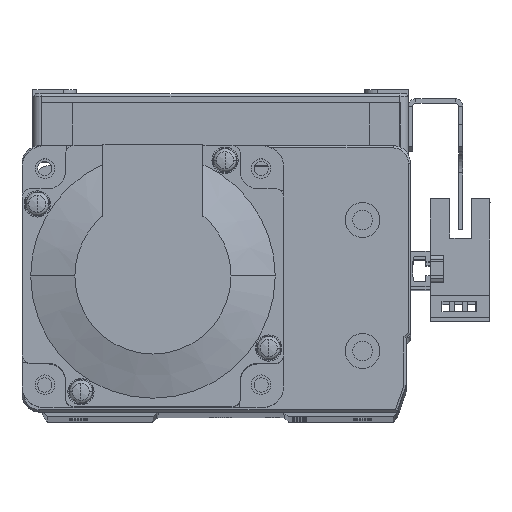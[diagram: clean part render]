
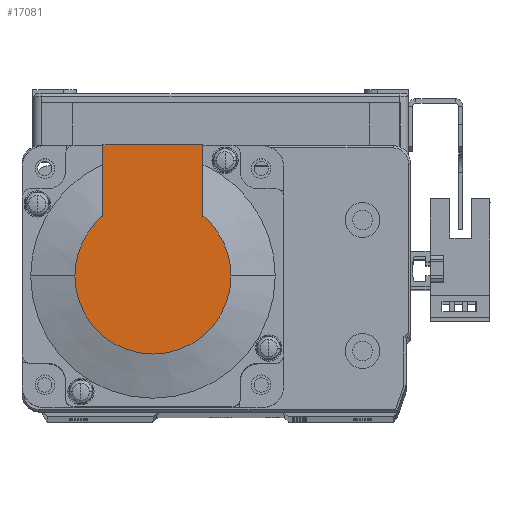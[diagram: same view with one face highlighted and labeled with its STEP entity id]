
A CAD part, top view. The second image highlights one B-rep face of the part: STEP entity #17081.
In plain terms, the highlighted planar face has unit normal (0, 0, 1) as drawn and (-1, 0, 0) by its records, which use the part's own axes.
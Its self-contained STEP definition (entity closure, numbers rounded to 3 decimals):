
#4326 = CIRCLE ( 'NONE', #12235, 17.881 ) ;
#4344 = CIRCLE ( 'NONE', #12296, 17.881 ) ;
#6601 = CARTESIAN_POINT ( 'NONE',  ( -99., 0., 0. ) ) ;
#6607 = DIRECTION ( 'NONE',  ( 0., 0., -1. ) ) ;
#6609 = DIRECTION ( 'NONE',  ( -1., 0., 0. ) ) ;
#6731 = CARTESIAN_POINT ( 'NONE',  ( -99., 0., 0. ) ) ;
#6736 = DIRECTION ( 'NONE',  ( -1., 0., 0. ) ) ;
#6740 = DIRECTION ( 'NONE',  ( 0., 0., -1. ) ) ;
#9316 = EDGE_LOOP ( 'NONE', ( #46288, #46279, #46207, #46293, #46287, #46234 ) ) ;
#11631 = AXIS2_PLACEMENT_3D ( 'NONE', #33202, #33205, #33227 ) ;
#12235 = AXIS2_PLACEMENT_3D ( 'NONE', #6601, #6609, #6607 ) ;
#12296 = AXIS2_PLACEMENT_3D ( 'NONE', #6731, #6736, #6740 ) ;
#12462 = AXIS2_PLACEMENT_3D ( 'NONE', #30920, #30887, #30897 ) ;
#17081 = ADVANCED_FACE ( 'NONE', ( #34033 ), #33199, .T. ) ;
#19394 = EDGE_CURVE ( 'NONE', #27131, #32759, #4326, .T. ) ;
#19442 = EDGE_CURVE ( 'NONE', #32778, #27131, #4344, .T. ) ;
#19741 = EDGE_CURVE ( 'NONE', #27224, #32778, #36564, .T. ) ;
#19788 = EDGE_CURVE ( 'NONE', #27286, #27219, #36650, .T. ) ;
#19821 = EDGE_CURVE ( 'NONE', #27286, #27224, #36708, .T. ) ;
#19824 = EDGE_CURVE ( 'NONE', #27219, #32759, #36724, .T. ) ;
#27131 = VERTEX_POINT ( 'NONE', #43230 ) ;
#27219 = VERTEX_POINT ( 'NONE', #43365 ) ;
#27224 = VERTEX_POINT ( 'NONE', #43380 ) ;
#27286 = VERTEX_POINT ( 'NONE', #43458 ) ;
#30887 = DIRECTION ( 'NONE',  ( -1., 0., 0. ) ) ;
#30897 = DIRECTION ( 'NONE',  ( 0., 0., -1. ) ) ;
#30920 = CARTESIAN_POINT ( 'NONE',  ( -99., 0., 0. ) ) ;
#31013 = DIRECTION ( 'NONE',  ( 0., 0., 1. ) ) ;
#31025 = CARTESIAN_POINT ( 'NONE',  ( -99., 30., 25. ) ) ;
#31089 = CARTESIAN_POINT ( 'NONE',  ( -99., 0., 11.45 ) ) ;
#31104 = DIRECTION ( 'NONE',  ( 0., -1., 0. ) ) ;
#31110 = DIRECTION ( 'NONE',  ( 0., -1., 0. ) ) ;
#31124 = CARTESIAN_POINT ( 'NONE',  ( -99., -8.941, -11.45 ) ) ;
#32759 = VERTEX_POINT ( 'NONE', #44713 ) ;
#32778 = VERTEX_POINT ( 'NONE', #44701 ) ;
#33199 = PLANE ( 'NONE',  #11631 ) ;
#33202 = CARTESIAN_POINT ( 'NONE',  ( -99., -8.941, 0. ) ) ;
#33205 = DIRECTION ( 'NONE',  ( -1., 0., 0. ) ) ;
#33227 = DIRECTION ( 'NONE',  ( 0., 0., 1. ) ) ;
#34033 = FACE_OUTER_BOUND ( 'NONE', #9316, .T. ) ;
#36564 = CIRCLE ( 'NONE', #12462, 17.881 ) ;
#36640 = VECTOR ( 'NONE', #31013, 1000. ) ;
#36650 = LINE ( 'NONE', #31025, #36640 ) ;
#36679 = VECTOR ( 'NONE', #31104, 1000. ) ;
#36708 = LINE ( 'NONE', #31124, #36718 ) ;
#36718 = VECTOR ( 'NONE', #31110, 1000. ) ;
#36724 = LINE ( 'NONE', #31089, #36679 ) ;
#43230 = CARTESIAN_POINT ( 'NONE',  ( -99., 0., 17.881 ) ) ;
#43365 = CARTESIAN_POINT ( 'NONE',  ( -99., 30., 11.45 ) ) ;
#43380 = CARTESIAN_POINT ( 'NONE',  ( -99., 13.735, -11.45 ) ) ;
#43458 = CARTESIAN_POINT ( 'NONE',  ( -99., 30., -11.45 ) ) ;
#44701 = CARTESIAN_POINT ( 'NONE',  ( -99., 0., -17.881 ) ) ;
#44713 = CARTESIAN_POINT ( 'NONE',  ( -99., 13.735, 11.45 ) ) ;
#46207 = ORIENTED_EDGE ( 'NONE', *, *, #19442, .T. ) ;
#46234 = ORIENTED_EDGE ( 'NONE', *, *, #19788, .F. ) ;
#46279 = ORIENTED_EDGE ( 'NONE', *, *, #19741, .T. ) ;
#46287 = ORIENTED_EDGE ( 'NONE', *, *, #19824, .F. ) ;
#46288 = ORIENTED_EDGE ( 'NONE', *, *, #19821, .T. ) ;
#46293 = ORIENTED_EDGE ( 'NONE', *, *, #19394, .T. ) ;
